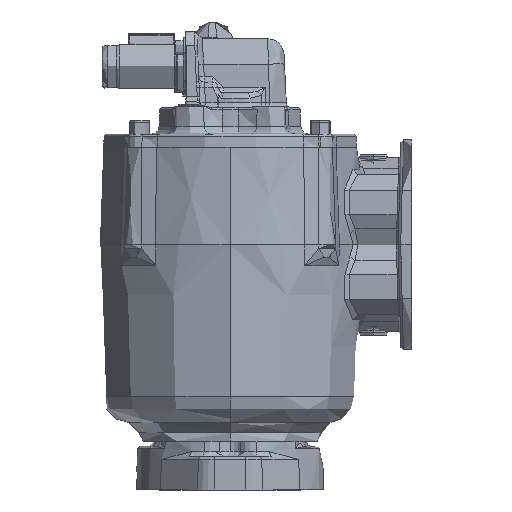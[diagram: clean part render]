
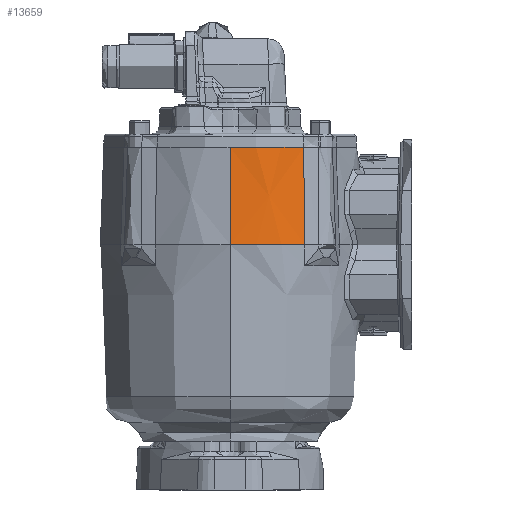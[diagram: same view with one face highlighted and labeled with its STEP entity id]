
A CAD part, left-side view. The second image highlights one B-rep face of the part: STEP entity #13659.
In plain terms, the highlighted conical face has half-angle 2 degrees and reference radius 78.232 mm.
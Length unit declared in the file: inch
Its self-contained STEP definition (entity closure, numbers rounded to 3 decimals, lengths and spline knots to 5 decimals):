
#121 = LINE ( 'NONE', #133601, #65941 ) ;
#6980 = EDGE_CURVE ( 'NONE', #107324, #70523, #43640, .T. ) ;
#9135 = EDGE_CURVE ( 'NONE', #70523, #34410, #121, .T. ) ;
#13659 = ADVANCED_FACE ( 'NONE', ( #23320 ), #131099, .T. ) ;
#13737 = ORIENTED_EDGE ( 'NONE', *, *, #92490, .F. ) ;
#15704 = CARTESIAN_POINT ( 'NONE',  ( -3.79389, 1.59322, 0. ) ) ;
#16254 = ORIENTED_EDGE ( 'NONE', *, *, #9135, .T. ) ;
#17518 = DIRECTION ( 'NONE',  ( 0., 0., -1. ) ) ;
#23320 = FACE_OUTER_BOUND ( 'NONE', #42956, .T. ) ;
#28338 = CARTESIAN_POINT ( 'NONE',  ( -1.25, 3.3296, 2.2645 ) ) ;
#28379 = AXIS2_PLACEMENT_3D ( 'NONE', #33189, #64953, #33896 ) ;
#30733 = ORIENTED_EDGE ( 'NONE', *, *, #79554, .T. ) ;
#33138 = CARTESIAN_POINT ( 'NONE',  ( -3.71437, 1.61717, 2.2645 ) ) ;
#33189 = CARTESIAN_POINT ( 'NONE',  ( -1.25, 3.3296, 0. ) ) ;
#33896 = DIRECTION ( 'NONE',  ( 1., 0., 0. ) ) ;
#34410 = VERTEX_POINT ( 'NONE', #86652 ) ;
#42956 = EDGE_LOOP ( 'NONE', ( #62209, #16254, #13737, #30733 ) ) ;
#43640 = CIRCLE ( 'NONE', #62105, 3.00092 ) ;
#62040 = CARTESIAN_POINT ( 'NONE',  ( -3.74018, 1.60955, 1.53298 ) ) ;
#62105 = AXIS2_PLACEMENT_3D ( 'NONE', #28338, #17518, #131245 ) ;
#62209 = ORIENTED_EDGE ( 'NONE', *, *, #6980, .T. ) ;
#64953 = DIRECTION ( 'NONE',  ( 0., 0., -1. ) ) ;
#65192 = CARTESIAN_POINT ( 'NONE',  ( -1.25, 3.3296, 0. ) ) ;
#65941 = VECTOR ( 'NONE', #132178, 39.37008 ) ;
#70523 = VERTEX_POINT ( 'NONE', #137753 ) ;
#71259 = AXIS2_PLACEMENT_3D ( 'NONE', #65192, #122161, #130885 ) ;
#79554 = EDGE_CURVE ( 'NONE', #140638, #107324, #92181, .T. ) ;
#83731 = CARTESIAN_POINT ( 'NONE',  ( -3.79389, 1.59322, 0. ) ) ;
#85112 = CARTESIAN_POINT ( 'NONE',  ( -3.76669, 1.60156, 0.77814 ) ) ;
#86652 = CARTESIAN_POINT ( 'NONE',  ( -4.33, 3.3296, 0. ) ) ;
#92181 = B_SPLINE_CURVE_WITH_KNOTS ( 'NONE', 3,
 ( #83731, #85112, #62040, #108164 ),
 .UNSPECIFIED., .F., .F.,
 ( 4, 4 ),
 ( 0., 1. ),
 .UNSPECIFIED. ) ;
#92490 = EDGE_CURVE ( 'NONE', #140638, #34410, #111262, .T. ) ;
#107324 = VERTEX_POINT ( 'NONE', #33138 ) ;
#108164 = CARTESIAN_POINT ( 'NONE',  ( -3.71437, 1.61717, 2.2645 ) ) ;
#111262 = CIRCLE ( 'NONE', #28379, 3.08 ) ;
#122161 = DIRECTION ( 'NONE',  ( 0., 0., -1. ) ) ;
#130885 = DIRECTION ( 'NONE',  ( -1., 0., 0. ) ) ;
#131099 = CONICAL_SURFACE ( 'NONE', #71259, 3.08, 0.035 ) ;
#131245 = DIRECTION ( 'NONE',  ( -1., 0., 0. ) ) ;
#132178 = DIRECTION ( 'NONE',  ( -0.035, 0., -0.999 ) ) ;
#133601 = CARTESIAN_POINT ( 'NONE',  ( -4.33, 3.3296, 0. ) ) ;
#137753 = CARTESIAN_POINT ( 'NONE',  ( -4.25092, 3.3296, 2.2645 ) ) ;
#140638 = VERTEX_POINT ( 'NONE', #15704 ) ;
